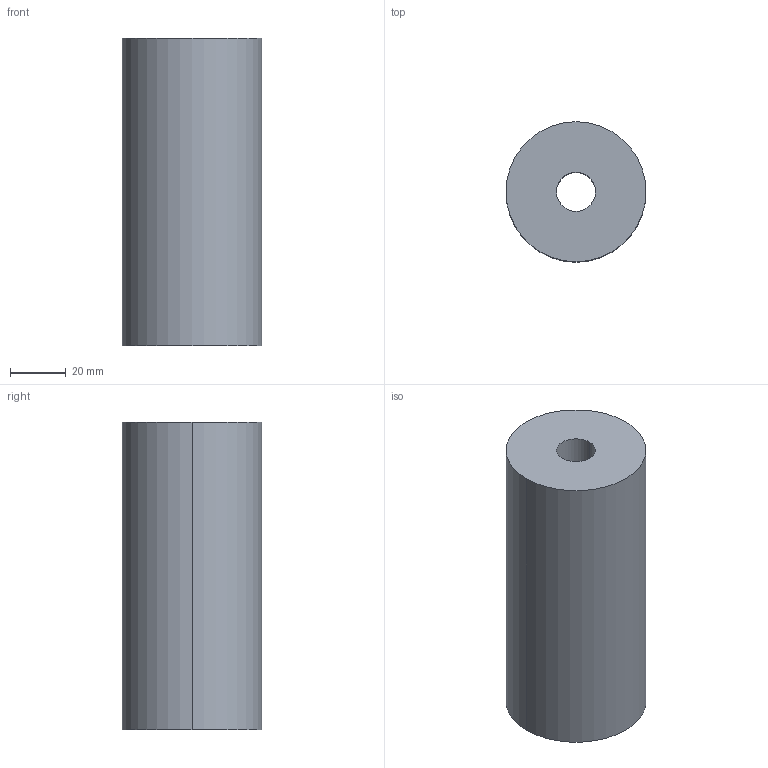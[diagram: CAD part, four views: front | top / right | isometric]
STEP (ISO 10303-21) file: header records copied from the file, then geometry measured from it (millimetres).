
FILE_DESCRIPTION(/* description */ (''),/* implementation_level */ '2;1');
FILE_NAME(/* name */ '3d_e50-110_03706_r00.stp',/* time_stamp */ '2011-01-10T14:15:49+09:00',/* author */ ('MISUMI'),/* organization */ (''),/* preprocessor_version */ 'ST-DEVELOPER v11',/* originating_system */ 'UGS - NX 5.0',/* authorisation */ '');
FILE_SCHEMA (('CONFIG_CONTROL_DESIGN'));
Length unit declared in the file: millimetre
Products named in the file (1): 3d_e50-110_03706_r00
Bounding box: 50 x 50 x 110 mm (x, y, z)
Volume: 199051.3 mm3; surface area: 25735.9 mm2
Topology: 1 solids, 1 shells, 6 faces, 12 edges, 8 vertices
Faces by surface type: cylinder 4, plane 2
Entity records: 254 total; most frequent: DIRECTION 34, CARTESIAN_POINT 27, ORIENTED_EDGE 24, AXIS2_PLACEMENT_3D 15, EDGE_CURVE 12, EDGE_LOOP 8, VERTEX_POINT 8, CIRCLE 8
